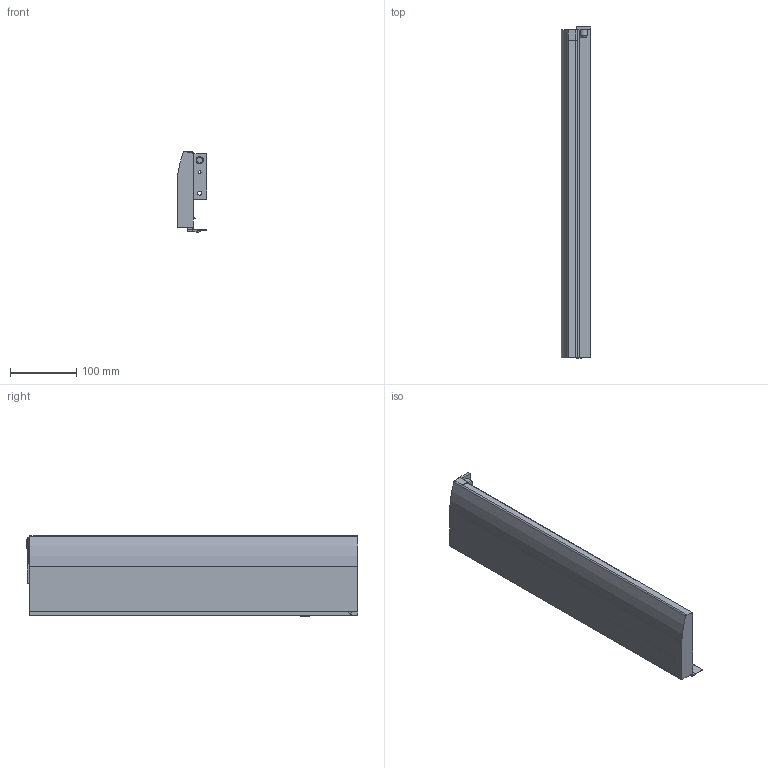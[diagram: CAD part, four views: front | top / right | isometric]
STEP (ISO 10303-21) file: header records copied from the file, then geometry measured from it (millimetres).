
FILE_DESCRIPTION (( 'STEP AP214' ), '1' );
FILE_NAME ('_IMOS_NOVA-Pro_Dekor-H122_DL_NL500_LI.step', '2010-07-14T11:02:23', ( 'grass' ), ( '' ), 'SwSTEP 2.0', 'SolidWorks 2010', '' );
FILE_SCHEMA (( 'AUTOMOTIVE_DESIGN' ));
Length unit declared in the file: millimetre
Products named in the file (1): _IMOS_NOVA-Pro_Dekor-H122_DL_NL500_LI
Bounding box: 44.3 x 502.7 x 122.49 mm (x, y, z)
Volume: 923609 mm3; surface area: 205469.9 mm2
Topology: 1 solids, 1 shells, 84 faces, 227 edges, 150 vertices
Faces by surface type: plane 52, cylinder 27, cone 4, bspline 1
Entity records: 2685 total; most frequent: CARTESIAN_POINT 475, DIRECTION 454, ORIENTED_EDGE 454, EDGE_CURVE 227, LINE 164, VECTOR 164, VERTEX_POINT 150, AXIS2_PLACEMENT_3D 145
